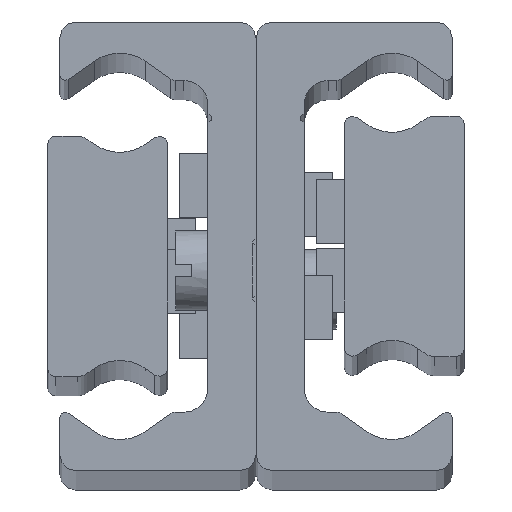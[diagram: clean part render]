
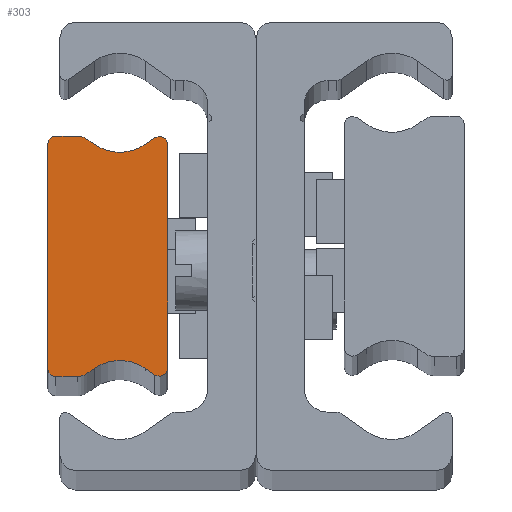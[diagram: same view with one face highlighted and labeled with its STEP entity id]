
A CAD part, top view. The second image highlights one B-rep face of the part: STEP entity #303.
In plain terms, the highlighted planar face has unit normal (0, 0, 1) as drawn and (0, 0, -1) by its records, which use the part's own axes.
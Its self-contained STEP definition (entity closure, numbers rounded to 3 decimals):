
#303 = ADVANCED_FACE( '', ( #707 ), #708, .F. );
#707 = FACE_OUTER_BOUND( '', #1293, .T. );
#708 = PLANE( '', #1294 );
#1293 = EDGE_LOOP( '', ( #1974, #1975, #1976, #1977, #1978, #1979, #1980, #1981, #1982, #1983, #1984, #1985, #1986, #1987, #1988, #1989 ) );
#1294 = AXIS2_PLACEMENT_3D( '', #1990, #1991, #1992 );
#1974 = ORIENTED_EDGE( '', *, *, #3187, .F. );
#1975 = ORIENTED_EDGE( '', *, *, #3123, .F. );
#1976 = ORIENTED_EDGE( '', *, *, #3188, .F. );
#1977 = ORIENTED_EDGE( '', *, *, #3189, .F. );
#1978 = ORIENTED_EDGE( '', *, *, #3190, .F. );
#1979 = ORIENTED_EDGE( '', *, *, #3184, .T. );
#1980 = ORIENTED_EDGE( '', *, *, #3191, .F. );
#1981 = ORIENTED_EDGE( '', *, *, #3192, .F. );
#1982 = ORIENTED_EDGE( '', *, *, #3193, .F. );
#1983 = ORIENTED_EDGE( '', *, *, #3194, .F. );
#1984 = ORIENTED_EDGE( '', *, *, #3195, .F. );
#1985 = ORIENTED_EDGE( '', *, *, #3196, .T. );
#1986 = ORIENTED_EDGE( '', *, *, #3197, .F. );
#1987 = ORIENTED_EDGE( '', *, *, #3198, .F. );
#1988 = ORIENTED_EDGE( '', *, *, #3199, .F. );
#1989 = ORIENTED_EDGE( '', *, *, #3200, .F. );
#1990 = CARTESIAN_POINT( '', ( 0.5, -7., -690. ) );
#1991 = DIRECTION( '', ( 0., 0., 1. ) );
#1992 = DIRECTION( '', ( 1., 0., 0. ) );
#3123 = EDGE_CURVE( '', #3655, #3657, #3658, .T. );
#3184 = EDGE_CURVE( '', #3766, #3764, #3767, .T. );
#3187 = EDGE_CURVE( '', #3657, #3770, #3771, .T. );
#3188 = EDGE_CURVE( '', #3772, #3655, #3773, .T. );
#3189 = EDGE_CURVE( '', #3774, #3772, #3775, .T. );
#3190 = EDGE_CURVE( '', #3766, #3774, #3776, .T. );
#3191 = EDGE_CURVE( '', #3777, #3764, #3778, .T. );
#3192 = EDGE_CURVE( '', #3779, #3777, #3780, .T. );
#3193 = EDGE_CURVE( '', #3781, #3779, #3782, .T. );
#3194 = EDGE_CURVE( '', #3783, #3781, #3784, .T. );
#3195 = EDGE_CURVE( '', #3785, #3783, #3786, .T. );
#3196 = EDGE_CURVE( '', #3785, #3787, #3788, .T. );
#3197 = EDGE_CURVE( '', #3789, #3787, #3790, .T. );
#3198 = EDGE_CURVE( '', #3791, #3789, #3792, .T. );
#3199 = EDGE_CURVE( '', #3793, #3791, #3794, .T. );
#3200 = EDGE_CURVE( '', #3770, #3793, #3795, .T. );
#3655 = VERTEX_POINT( '', #4421 );
#3657 = VERTEX_POINT( '', #4424 );
#3658 = CIRCLE( '', #4425, 0.5 );
#3764 = VERTEX_POINT( '', #4561 );
#3766 = VERTEX_POINT( '', #4564 );
#3767 = CIRCLE( '', #4565, 2.778 );
#3770 = VERTEX_POINT( '', #4569 );
#3771 = LINE( '', #4570, #4571 );
#3772 = VERTEX_POINT( '', #4572 );
#3773 = LINE( '', #4573, #4574 );
#3774 = VERTEX_POINT( '', #4575 );
#3775 = CIRCLE( '', #4576, 1. );
#3776 = LINE( '', #4577, #4578 );
#3777 = VERTEX_POINT( '', #4579 );
#3778 = LINE( '', #4580, #4581 );
#3779 = VERTEX_POINT( '', #4582 );
#3780 = CIRCLE( '', #4583, 0.523 );
#3781 = VERTEX_POINT( '', #4584 );
#3782 = LINE( '', #4585, #4586 );
#3783 = VERTEX_POINT( '', #4587 );
#3784 = CIRCLE( '', #4588, 0.523 );
#3785 = VERTEX_POINT( '', #4589 );
#3786 = LINE( '', #4590, #4591 );
#3787 = VERTEX_POINT( '', #4592 );
#3788 = CIRCLE( '', #4593, 2.778 );
#3789 = VERTEX_POINT( '', #4594 );
#3790 = LINE( '', #4595, #4596 );
#3791 = VERTEX_POINT( '', #4597 );
#3792 = CIRCLE( '', #4598, 1. );
#3793 = VERTEX_POINT( '', #4599 );
#3794 = LINE( '', #4600, #4601 );
#3795 = CIRCLE( '', #4602, 0.5 );
#4421 = CARTESIAN_POINT( '', ( 0.5, 7.5, -690. ) );
#4424 = CARTESIAN_POINT( '', ( 0., 7., -690. ) );
#4425 = AXIS2_PLACEMENT_3D( '', #5303, #5304, #5305 );
#4561 = CARTESIAN_POINT( '', ( 6.093, 6.997, -690. ) );
#4564 = CARTESIAN_POINT( '', ( 2.907, 6.997, -690. ) );
#4565 = AXIS2_PLACEMENT_3D( '', #5391, #5392, #5393 );
#4569 = CARTESIAN_POINT( '', ( 0., -7., -690. ) );
#4570 = CARTESIAN_POINT( '', ( 0., 7., -690. ) );
#4571 = VECTOR( '', #5395, 1000. );
#4572 = CARTESIAN_POINT( '', ( 1.873, 7.5, -690. ) );
#4573 = CARTESIAN_POINT( '', ( 1.873, 7.5, -690. ) );
#4574 = VECTOR( '', #5396, 1000. );
#4575 = CARTESIAN_POINT( '', ( 2.446, 7.319, -690. ) );
#4576 = AXIS2_PLACEMENT_3D( '', #5397, #5398, #5399 );
#4577 = CARTESIAN_POINT( '', ( 2.907, 6.997, -690. ) );
#4578 = VECTOR( '', #5400, 1000. );
#4579 = CARTESIAN_POINT( '', ( 6.677, 7.405, -690. ) );
#4580 = CARTESIAN_POINT( '', ( 6.677, 7.405, -690. ) );
#4581 = VECTOR( '', #5401, 1000. );
#4582 = CARTESIAN_POINT( '', ( 7.5, 6.977, -690. ) );
#4583 = AXIS2_PLACEMENT_3D( '', #5402, #5403, #5404 );
#4584 = CARTESIAN_POINT( '', ( 7.5, -6.977, -690. ) );
#4585 = CARTESIAN_POINT( '', ( 7.5, -6.977, -690. ) );
#4586 = VECTOR( '', #5405, 1000. );
#4587 = CARTESIAN_POINT( '', ( 6.677, -7.405, -690. ) );
#4588 = AXIS2_PLACEMENT_3D( '', #5406, #5407, #5408 );
#4589 = CARTESIAN_POINT( '', ( 6.093, -6.997, -690. ) );
#4590 = CARTESIAN_POINT( '', ( 6.093, -6.997, -690. ) );
#4591 = VECTOR( '', #5409, 1000. );
#4592 = CARTESIAN_POINT( '', ( 2.907, -6.997, -690. ) );
#4593 = AXIS2_PLACEMENT_3D( '', #5410, #5411, #5412 );
#4594 = CARTESIAN_POINT( '', ( 2.446, -7.319, -690. ) );
#4595 = CARTESIAN_POINT( '', ( 2.446, -7.319, -690. ) );
#4596 = VECTOR( '', #5413, 1000. );
#4597 = CARTESIAN_POINT( '', ( 1.873, -7.5, -690. ) );
#4598 = AXIS2_PLACEMENT_3D( '', #5414, #5415, #5416 );
#4599 = CARTESIAN_POINT( '', ( 0.5, -7.5, -690. ) );
#4600 = CARTESIAN_POINT( '', ( 0.5, -7.5, -690. ) );
#4601 = VECTOR( '', #5417, 1000. );
#4602 = AXIS2_PLACEMENT_3D( '', #5418, #5419, #5420 );
#5303 = CARTESIAN_POINT( '', ( 0.5, 7., -690. ) );
#5304 = DIRECTION( '', ( 0., 0., 1. ) );
#5305 = DIRECTION( '', ( 1., 0., 0. ) );
#5391 = CARTESIAN_POINT( '', ( 4.5, 9.272, -690. ) );
#5392 = DIRECTION( '', ( 0., 0., 1. ) );
#5393 = DIRECTION( '', ( 1., 0., 0. ) );
#5395 = DIRECTION( '', ( 0., -1., 0. ) );
#5396 = DIRECTION( '', ( -1., 0., 0. ) );
#5397 = CARTESIAN_POINT( '', ( 1.873, 6.5, -690. ) );
#5398 = DIRECTION( '', ( 0., 0., 1. ) );
#5399 = DIRECTION( '', ( 1., 0., 0. ) );
#5400 = DIRECTION( '', ( -0.819, 0.574, 0. ) );
#5401 = DIRECTION( '', ( -0.819, -0.574, 0. ) );
#5402 = CARTESIAN_POINT( '', ( 6.977, 6.977, -690. ) );
#5403 = DIRECTION( '', ( 0., 0., 1. ) );
#5404 = DIRECTION( '', ( 1., 0., 0. ) );
#5405 = DIRECTION( '', ( 0., 1., 0. ) );
#5406 = CARTESIAN_POINT( '', ( 6.977, -6.977, -690. ) );
#5407 = DIRECTION( '', ( 0., 0., 1. ) );
#5408 = DIRECTION( '', ( 1., 0., 0. ) );
#5409 = DIRECTION( '', ( 0.819, -0.574, 0. ) );
#5410 = CARTESIAN_POINT( '', ( 4.5, -9.272, -690. ) );
#5411 = DIRECTION( '', ( 0., 0., 1. ) );
#5412 = DIRECTION( '', ( 1., 0., 0. ) );
#5413 = DIRECTION( '', ( 0.819, 0.574, 0. ) );
#5414 = CARTESIAN_POINT( '', ( 1.873, -6.5, -690. ) );
#5415 = DIRECTION( '', ( 0., 0., 1. ) );
#5416 = DIRECTION( '', ( 1., 0., 0. ) );
#5417 = DIRECTION( '', ( 1., 0., 0. ) );
#5418 = CARTESIAN_POINT( '', ( 0.5, -7., -690. ) );
#5419 = DIRECTION( '', ( 0., 0., 1. ) );
#5420 = DIRECTION( '', ( 1., 0., 0. ) );
